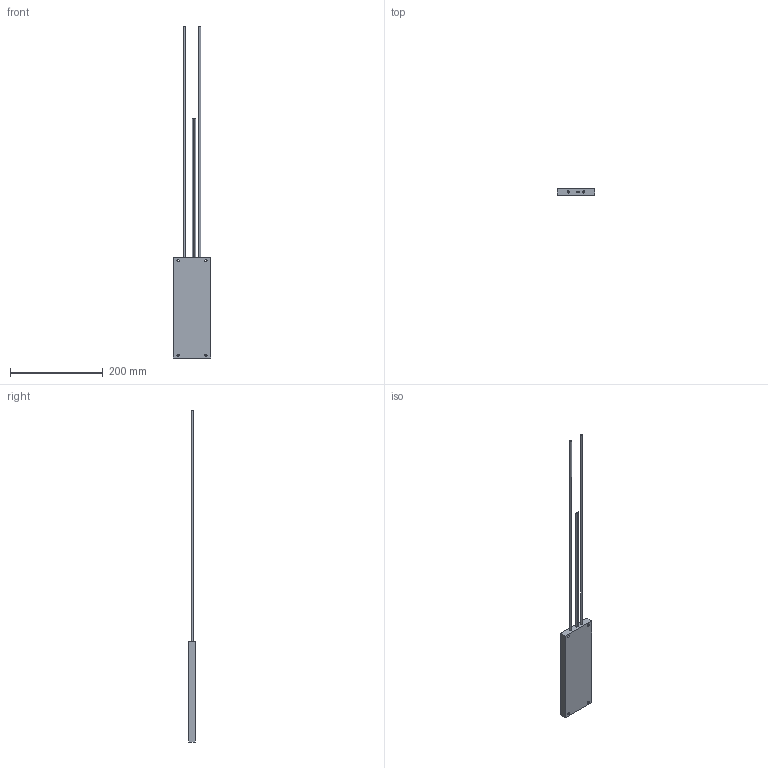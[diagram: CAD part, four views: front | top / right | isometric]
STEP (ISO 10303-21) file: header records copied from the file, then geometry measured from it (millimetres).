
FILE_DESCRIPTION(/* description */ (''),/* implementation_level */ '2;1');
FILE_NAME(/* name */ 'C:\_Vault\Dati\CATALOGO\RFD\RFDT300.stp',/* time_stamp */ '2014-03-24T17:08:49+01:00',/* author */ ('stefano'),/* organization */ (''),/* preprocessor_version */ 'ST-DEVELOPER v15.2',/* originating_system */ 'Autodesk Inventor 2014',/* authorisation */ '');
FILE_SCHEMA (('AUTOMOTIVE_DESIGN { 1 0 10303 214 3 1 1 }'));
Length unit declared in the file: millimetre
Products named in the file (1): RFDT300
Bounding box: 80 x 15 x 716.1 mm (x, y, z)
Volume: 273534.5 mm3; surface area: 61506.4 mm2
Topology: 1 solids, 1 shells, 26 faces, 52 edges, 36 vertices
Faces by surface type: plane 14, cylinder 12
Full cylindrical faces by diameter (mm): 1.5 x2, 2 x2, 2.5 x2, 4 x2, 5 x4
Entity records: 708 total; most frequent: DIRECTION 114, CARTESIAN_POINT 95, ORIENTED_EDGE 72, EDGE_LOOP 54, AXIS2_PLACEMENT_3D 51, EDGE_CURVE 36, FACE_BOUND 35, VERTEX_POINT 32
